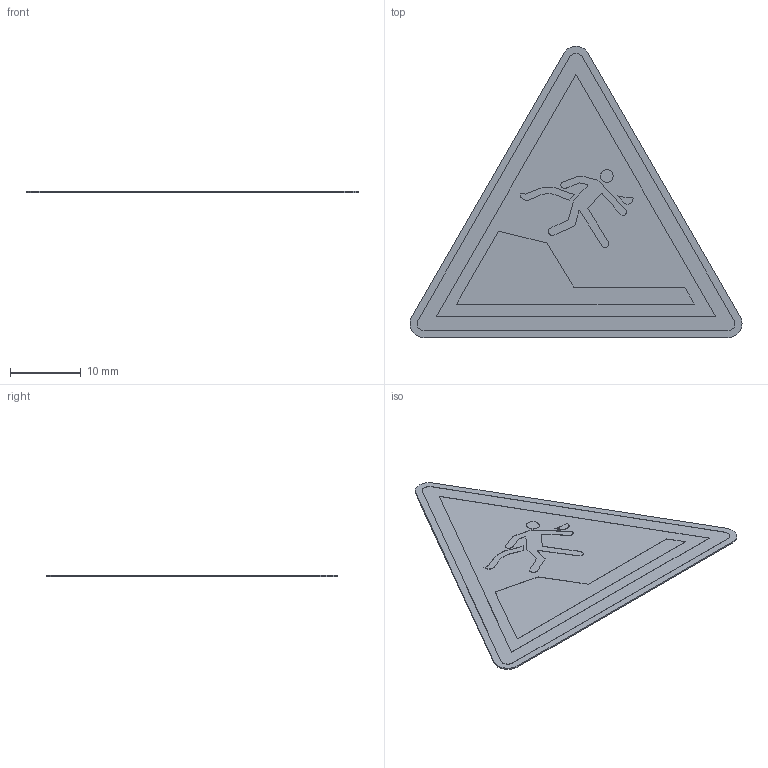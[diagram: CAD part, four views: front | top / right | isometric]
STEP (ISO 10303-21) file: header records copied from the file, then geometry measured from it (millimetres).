
FILE_DESCRIPTION (( 'STEP AP214' ), '1' );
FILE_NAME ('W050_Warnung vor unvermittelter Tiefenänderung in Schwimm- oder Freizeitbecken.STEP', '2022-03-04T06:00:58', ( '' ), ( '' ), 'SwSTEP 2.0', 'SolidWorks 2021', '' );
FILE_SCHEMA (( 'AUTOMOTIVE_DESIGN' ));
Length unit declared in the file: millimetre
Products named in the file (1): W050_Warnung vor unvermittelter Tiefenänderung in Schwimm- oder Freizeitbecken
Bounding box: 47.07 x 41.3 x 0.22 mm (x, y, z)
Volume: 224 mm3; surface area: 2185.3 mm2
Topology: 1 solids, 1 shells, 110 faces, 303 edges, 202 vertices
Faces by surface type: plane 94, cylinder 16
Entity records: 4604 total; most frequent: CARTESIAN_POINT 616, ORIENTED_EDGE 606, DIRECTION 557, EDGE_CURVE 303, LINE 271, VECTOR 271, VERTEX_POINT 202, AXIS2_PLACEMENT_3D 143
